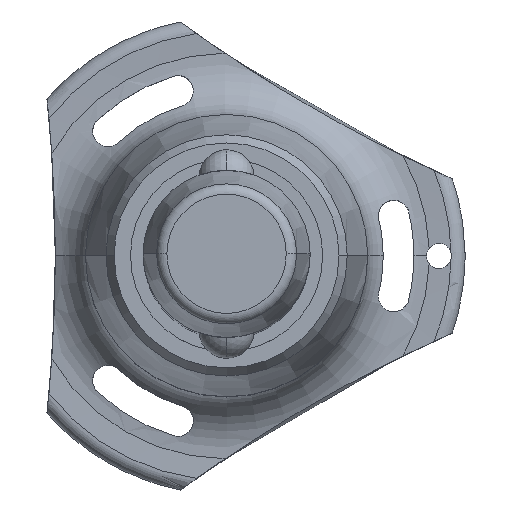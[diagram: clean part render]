
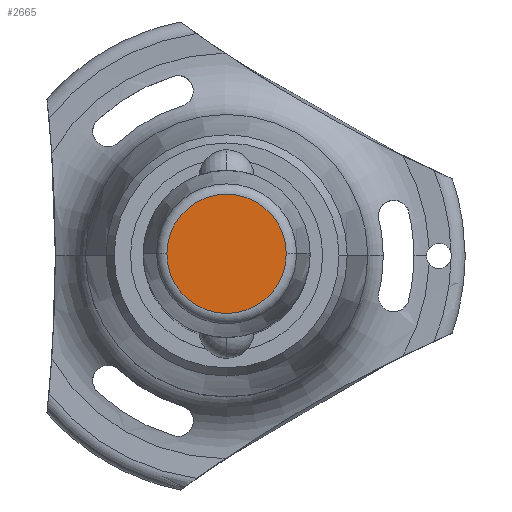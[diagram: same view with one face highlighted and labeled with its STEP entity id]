
A CAD part, top view. The second image highlights one B-rep face of the part: STEP entity #2665.
In plain terms, the highlighted planar face has unit normal (0, 0, 1).
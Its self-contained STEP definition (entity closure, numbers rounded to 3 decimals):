
#150 = DIRECTION ( 'NONE',  ( 1., 0., 0. ) ) ;
#164 = DIRECTION ( 'NONE',  ( 1., 0., 0. ) ) ;
#195 = VERTEX_POINT ( 'NONE', #2495 ) ;
#351 = FACE_OUTER_BOUND ( 'NONE', #1957, .T. ) ;
#498 = AXIS2_PLACEMENT_3D ( 'NONE', #1033, #1242, #2777 ) ;
#958 = ORIENTED_EDGE ( 'NONE', *, *, #2417, .T. ) ;
#1033 = CARTESIAN_POINT ( 'NONE',  ( 0., 0., 20.5 ) ) ;
#1077 = VERTEX_POINT ( 'NONE', #1342 ) ;
#1242 = DIRECTION ( 'NONE',  ( 0., 0., 1. ) ) ;
#1342 = CARTESIAN_POINT ( 'NONE',  ( 7.144, 0., 20.5 ) ) ;
#1366 = CIRCLE ( 'NONE', #498, 7.144 ) ;
#1468 = PLANE ( 'NONE',  #1719 ) ;
#1646 = ORIENTED_EDGE ( 'NONE', *, *, #2705, .T. ) ;
#1719 = AXIS2_PLACEMENT_3D ( 'NONE', #2795, #2366, #164 ) ;
#1903 = CIRCLE ( 'NONE', #2222, 7.144 ) ;
#1957 = EDGE_LOOP ( 'NONE', ( #958, #1646 ) ) ;
#2222 = AXIS2_PLACEMENT_3D ( 'NONE', #2345, #2614, #150 ) ;
#2345 = CARTESIAN_POINT ( 'NONE',  ( 0., 0., 20.5 ) ) ;
#2366 = DIRECTION ( 'NONE',  ( 0., 0., 1. ) ) ;
#2417 = EDGE_CURVE ( 'NONE', #1077, #195, #1366, .T. ) ;
#2495 = CARTESIAN_POINT ( 'NONE',  ( -7.144, 0., 20.5 ) ) ;
#2614 = DIRECTION ( 'NONE',  ( 0., 0., 1. ) ) ;
#2665 = ADVANCED_FACE ( 'NONE', ( #351 ), #1468, .T. ) ;
#2705 = EDGE_CURVE ( 'NONE', #195, #1077, #1903, .T. ) ;
#2777 = DIRECTION ( 'NONE',  ( 1., 0., 0. ) ) ;
#2795 = CARTESIAN_POINT ( 'NONE',  ( 0., 0., 20.5 ) ) ;
